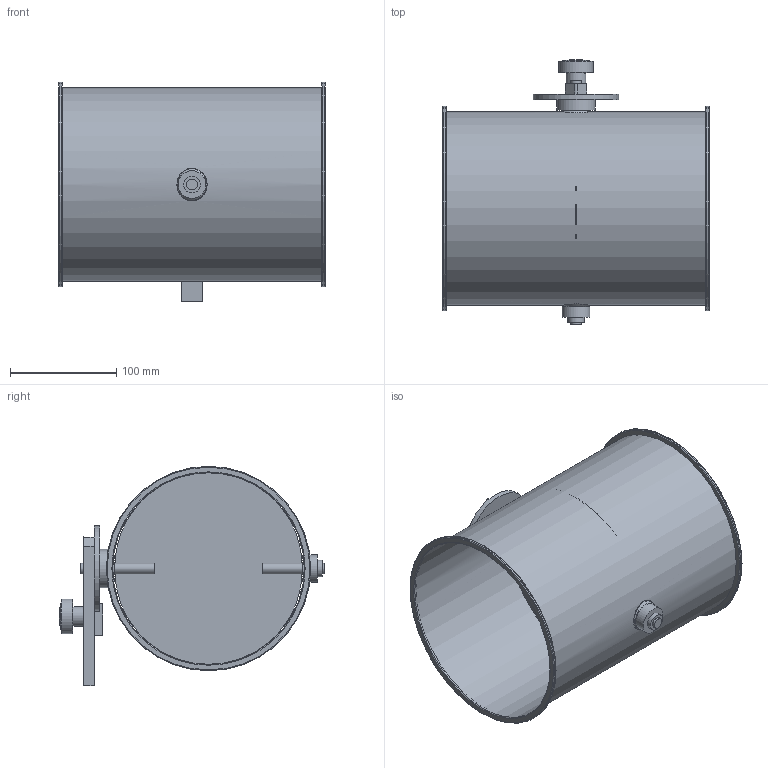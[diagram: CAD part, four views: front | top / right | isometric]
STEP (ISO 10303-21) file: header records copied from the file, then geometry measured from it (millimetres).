
FILE_DESCRIPTION(/* description */ (''),/* implementation_level */ '2;1');
FILE_NAME(/* name */ 'METU_Drosselklappe_Flansch_verzinkt_EA126-80B__180_L250_handbetaetigt.stp',/* time_stamp */ '2022-04-22T14:32:03+02:00',/* author */ (''),/* organization */ (''),/* preprocessor_version */ 'ST-DEVELOPER v11',/* originating_system */ 'SIEMENS UGS NX 6.0',/* authorisation */ '');
FILE_SCHEMA (('CONFIG_CONTROL_DESIGN'));
Length unit declared in the file: millimetre
Products named in the file (1): d.ga332Aq91j
Bounding box: 250 x 248.97 x 206 mm (x, y, z)
Volume: 250936.7 mm3; surface area: 386029 mm2
Topology: 12 solids, 12 shells, 100 faces, 204 edges, 139 vertices
Faces by surface type: plane 46, cylinder 34, torus 10, cone 4, bspline 4, sphere 2
Full cylindrical faces by diameter (mm): 4.2 x1, 4.4 x4, 5 x1, 6 x1, 10 x5, 15 x3, 15.85 x2, 16 x2, 18.5 x1, 24 x2, 25 x1, 26 x1, 32.5 x1, 36 x1, 80 x1, 180 x1, 181.6 x1, 192 x2
Entity records: 2904 total; most frequent: CARTESIAN_POINT 951, DIRECTION 400, ORIENTED_EDGE 264, EDGE_LOOP 190, AXIS2_PLACEMENT_3D 179, FACE_BOUND 168, EDGE_CURVE 132, VERTEX_POINT 116
